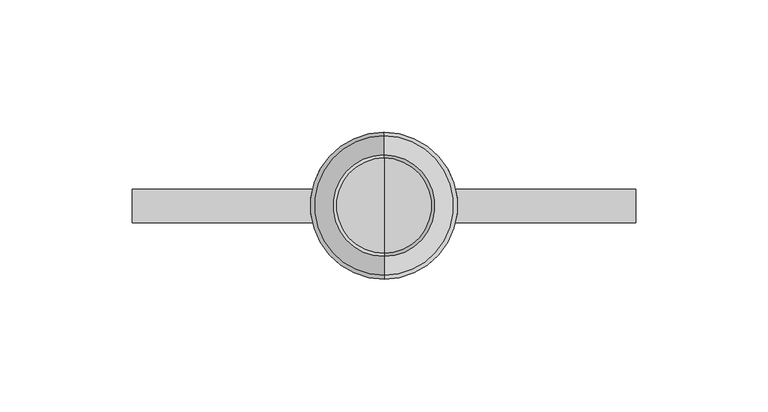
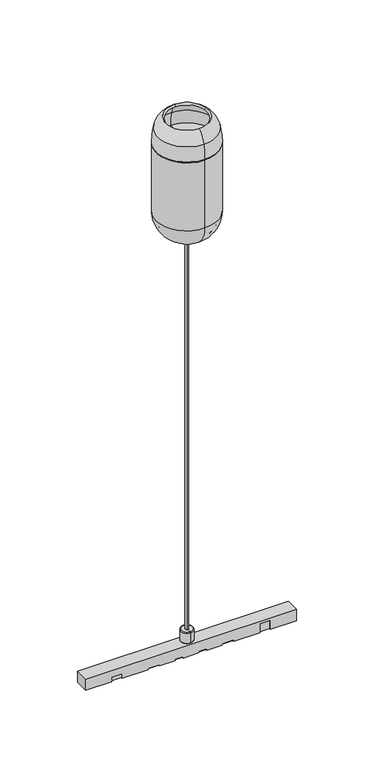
"""IFC4 building model written with IfcOpenShell, lengths in millimetres: light fixture geometry, ARTEMIDE-TurnAround-GopleD60 : 60Ø_13° 2700K."""

from ifc_helpers import new_model, si_unit, point, frame, origin, origin_with_axes, origin_2d, place, context, project, spatial, polyline, circle_curve, ellipse_curve, trimmed, segment, composite_curve, outline, extrude, faceted_brep, source, transform, mapped, element, save
from ifc_brep_helpers import plane_surface, cylinder_surface, revolved_surface, advanced_brep


def light_fixture_813dc2cb(model_context):
    return source(origin(), model_context, "Body", "SolidModel", [
        extrude(outline(polyline([(94.2415938, -5.3), (-94.2415938, -5.3), (-94.2415938, 5.3), (94.2415938, 5.3), (94.2415938, -5.3)])), frame((0.0, 0.0, -10.9), z_axis=(0.0, 0.0, 1.0), x_axis=(1.0, 0.0, 0.0)), (0.0, 0.0, 1.0), 9.9),
        faceted_brep([(-94.2415938, -5.3, -1.0), (-94.2415938, 5.3, -1.0), (94.2415938, 5.3, -1.0), (94.2415938, -5.3, -1.0), (95.2415938, 6.3079367, 0.0), (-95.2415938, 6.3079367, 0.0), (-95.2415938, -6.3079367, 0.0), (95.2415938, -6.3079367, 0.0), (95.2415938, -6.3079367, -10.9), (95.2415938, 6.3079367, -10.9), (71.7491989, -6.3079367, -10.9), (-95.2415938, -6.3079367, -10.9), (-71.7491989, -6.3079367, -10.9), (-71.7491989, -6.3079367, -6.5241217), (-62.1750978, -6.3079367, -6.5241217), (-62.1750978, -6.3079367, -10.9), (-38.7118449, -6.3079367, -10.9), (-38.4738035, -6.3079367, -9.5497944), (-28.5261965, -6.3079367, -9.5497944), (-28.2881551, -6.3079367, -10.9), (-14.4118449, -6.3079367, -10.9), (-14.1738035, -6.3079367, -9.5497944), (-7.2377889, -6.3079367, -9.5497944), (-6.9997475, -6.3079367, -10.9), (6.9997475, -6.3079367, -10.9), (7.2377889, -6.3079367, -9.5497944), (14.1738035, -6.3079367, -9.5497944), (14.4118449, -6.3079367, -10.9), (28.2881551, -6.3079367, -10.9), (28.5261965, -6.3079367, -9.5497944), (38.4738035, -6.3079367, -9.5497944), (38.7118449, -6.3079367, -10.9), (62.1750978, -6.3079367, -10.9), (62.1750978, -6.3079367, -2.4235673), (71.7491989, -6.3079367, -2.4235673), (-95.2415938, 6.3079367, -10.9), (71.7491989, 6.3079367, -10.9), (71.7491989, 6.3079367, -2.4235673), (62.1750978, 6.3079367, -2.4235673), (62.1750978, 6.3079367, -10.9), (38.7118449, 6.3079367, -10.9), (38.4738035, 6.3079367, -9.5497944), (28.5261965, 6.3079367, -9.5497944), (28.2881551, 6.3079367, -10.9), (14.4118449, 6.3079367, -10.9), (14.1738035, 6.3079367, -9.5497944), (7.2377889, 6.3079367, -9.5497944), (6.9997475, 6.3079367, -10.9), (-6.9997475, 6.3079367, -10.9), (-7.2377889, 6.3079367, -9.5497944), (-14.1738035, 6.3079367, -9.5497944), (-14.4118449, 6.3079367, -10.9), (-28.2881551, 6.3079367, -10.9), (-28.5261965, 6.3079367, -9.5497944), (-38.4738035, 6.3079367, -9.5497944), (-38.7118449, 6.3079367, -10.9), (-62.1750978, 6.3079367, -10.9), (-62.1750978, 6.3079367, -6.5241217), (-71.7491989, 6.3079367, -6.5241217), (-71.7491989, 6.3079367, -10.9), (-62.1750978, 5.3, -10.9), (-38.7118449, 5.3, -10.9), (-38.4738035, 5.3, -9.5497944), (-28.5261965, 5.3, -9.5497944), (-28.2881551, 5.3, -10.9), (-14.4118449, 5.3, -10.9), (-14.1738035, 5.3, -9.5497944), (-7.2377889, 5.3, -9.5497944), (-6.9997475, 5.3, -10.9), (6.9997475, 5.3, -10.9), (7.2377889, 5.3, -9.5497944), (14.1738035, 5.3, -9.5497944), (14.4118449, 5.3, -10.9), (28.2881551, 5.3, -10.9), (28.5261965, 5.3, -9.5497944), (38.4738035, 5.3, -9.5497944), (38.7118449, 5.3, -10.9), (62.1750978, 5.3, -10.9), (62.1750978, 5.3, -2.4235673), (71.7491989, 5.3, -2.4235673), (71.7491989, 5.3, -10.9), (94.2415938, 5.3, -10.9), (-94.2415938, 5.3, -10.9), (-71.7491989, 5.3, -10.9), (-71.7491989, 5.3, -6.5241217), (-62.1750978, 5.3, -6.5241217), (-94.2415938, -5.3, -10.9), (-71.7491989, -5.3, -10.9), (71.7491989, -5.3, -10.9), (94.2415938, -5.3, -10.9), (-62.1750978, -5.3, -10.9), (-62.1750978, -5.3, -6.5241217), (-71.7491989, -5.3, -6.5241217), (71.7491989, -5.3, -2.4235673), (62.1750978, -5.3, -2.4235673), (62.1750978, -5.3, -10.9), (38.7118449, -5.3, -10.9), (38.4738035, -5.3, -9.5497944), (28.5261965, -5.3, -9.5497944), (28.2881551, -5.3, -10.9), (14.4118449, -5.3, -10.9), (14.1738035, -5.3, -9.5497944), (7.2377889, -5.3, -9.5497944), (6.9997475, -5.3, -10.9), (-6.9997475, -5.3, -10.9), (-7.2377889, -5.3, -9.5497944), (-14.1738035, -5.3, -9.5497944), (-14.4118449, -5.3, -10.9), (-28.2881551, -5.3, -10.9), (-28.5261965, -5.3, -9.5497944), (-38.4738035, -5.3, -9.5497944), (-38.7118449, -5.3, -10.9)], [[[0, 1, 2, 3]], [[4, 5, 6, 7]], [[4, 7, 8, 9]], [[10, 8, 7, 6, 11, 12, 13, 14, 15, 16, 17, 18, 19, 20, 21, 22, 23, 24, 25, 26, 27, 28, 29, 30, 31, 32, 33, 34]], [[6, 5, 35, 11]], [[5, 4, 9, 36, 37, 38, 39, 40, 41, 42, 43, 44, 45, 46, 47, 48, 49, 50, 51, 52, 53, 54, 55, 56, 57, 58, 59, 35]], [[60, 61, 62, 63, 64, 65, 66, 67, 68, 69, 70, 71, 72, 73, 74, 75, 76, 77, 78, 79, 80, 81, 2, 1, 82, 83, 84, 85]], [[57, 56, 60, 85]], [[58, 57, 85, 84]], [[59, 58, 84, 83]], [[59, 83, 82, 86, 87, 12, 11, 35]], [[9, 8, 10, 88, 89, 81, 80, 36]], [[37, 36, 80, 79]], [[38, 37, 79, 78]], [[39, 38, 78, 77]], [[40, 39, 77, 76]], [[41, 40, 76, 75]], [[42, 41, 75, 74]], [[43, 42, 74, 73]], [[44, 43, 73, 72]], [[45, 44, 72, 71]], [[46, 45, 71, 70]], [[47, 46, 70, 69]], [[48, 47, 69, 68]], [[49, 48, 68, 67]], [[50, 49, 67, 66]], [[51, 50, 66, 65]], [[52, 51, 65, 64]], [[53, 52, 64, 63]], [[54, 53, 63, 62]], [[55, 54, 62, 61]], [[56, 55, 61, 60]], [[82, 1, 0, 86]], [[90, 91, 92, 87, 86, 0, 3, 89, 88, 93, 94, 95, 96, 97, 98, 99, 100, 101, 102, 103, 104, 105, 106, 107, 108, 109, 110, 111]], [[15, 14, 91, 90]], [[14, 13, 92, 91]], [[13, 12, 87, 92]], [[10, 34, 93, 88]], [[34, 33, 94, 93]], [[33, 32, 95, 94]], [[32, 31, 96, 95]], [[31, 30, 97, 96]], [[30, 29, 98, 97]], [[29, 28, 99, 98]], [[28, 27, 100, 99]], [[27, 26, 101, 100]], [[26, 25, 102, 101]], [[25, 24, 103, 102]], [[24, 23, 104, 103]], [[23, 22, 105, 104]], [[22, 21, 106, 105]], [[21, 20, 107, 106]], [[20, 19, 108, 107]], [[19, 18, 109, 108]], [[18, 17, 110, 109]], [[17, 16, 111, 110]], [[16, 15, 90, 111]], [[81, 89, 3, 2]]]),
        extrude(outline(composite_curve([segment(trimmed(circle_curve(origin_2d(), 1.35), [point((0.0, 1.35))], [point((0.0, -1.35))], False, "CARTESIAN"), True, "CONTINUOUS"), segment(trimmed(circle_curve(origin_2d(), 1.35), [point((0.0, -1.35))], [point((0.0, 1.35))], False, "CARTESIAN"), True, "CONTINUOUS")], self_intersect=False)), origin_with_axes(), (0.0, 0.0, 1.0), 474.9684564),
        advanced_brep(
        [(0.0, 1.35, 0.0), (0.0, -1.35, 0.0), (0.0, -4.8, 0.0), (0.0, 4.8, 0.0), (0.0, 4.8, 11.0), (0.0, -4.8, 11.0), (0.0, -1.35, 11.0), (0.0, 1.35, 11.0), (0.0, 5.5, 10.3), (0.0, -5.5, 10.3), (0.0, 5.5, 0.7), (0.0, -5.5, 0.7)],
        [
            (0, 1, circle_curve(frame((0.0, 0.0, 0.0), z_axis=(0.0, 0.0, 1.0), x_axis=(0.0, -1.0, 0.0)), 1.35)),
            (1, 2),
            (2, 3, circle_curve(frame((0.0, 0.0, 0.0), z_axis=(0.0, 0.0, -1.0), x_axis=(0.0, -1.0, 0.0)), 4.8)),
            (3, 0),
            (1, 0, circle_curve(frame((0.0, 0.0, 0.0), z_axis=(0.0, 0.0, 1.0), x_axis=(0.0, -1.0, 0.0)), 1.35)),
            (3, 2, circle_curve(frame((0.0, 0.0, 0.0), z_axis=(0.0, 0.0, -1.0), x_axis=(0.0, -1.0, 0.0)), 4.8)),
            (4, 5, circle_curve(frame((0.0, 0.0, 11.0), z_axis=(0.0, 0.0, 1.0), x_axis=(0.0, -1.0, 0.0)), 4.8)),
            (5, 6),
            (6, 7, circle_curve(frame((0.0, 0.0, 11.0), z_axis=(0.0, 0.0, -1.0), x_axis=(0.0, -1.0, 0.0)), 1.35)),
            (7, 4),
            (5, 4, circle_curve(frame((0.0, 0.0, 11.0), z_axis=(0.0, 0.0, 1.0), x_axis=(0.0, -1.0, 0.0)), 4.8)),
            (7, 6, circle_curve(frame((0.0, 0.0, 11.0), z_axis=(0.0, 0.0, -1.0), x_axis=(0.0, -1.0, 0.0)), 1.35)),
            (8, 9, circle_curve(frame((0.0, 0.0, 10.3), z_axis=(0.0, 0.0, 1.0), x_axis=(0.0, -1.0, 0.0)), 5.5)),
            (9, 5, circle_curve(frame((0.0, -4.8, 10.3), z_axis=(-1.0, 0.0, 0.0), x_axis=(0.0, 0.0, 1.0)), 0.7)),
            (4, 8, circle_curve(frame((0.0, 4.8, 10.3), z_axis=(-1.0, 0.0, 0.0), x_axis=(0.0, 0.0, 1.0)), 0.7)),
            (9, 8, circle_curve(frame((0.0, 0.0, 10.3), z_axis=(0.0, 0.0, 1.0), x_axis=(0.0, -1.0, 0.0)), 5.5)),
            (10, 11, circle_curve(frame((0.0, 0.0, 0.7), z_axis=(0.0, 0.0, 1.0), x_axis=(0.0, -1.0, 0.0)), 5.5)),
            (11, 9),
            (8, 10),
            (11, 10, circle_curve(frame((0.0, 0.0, 0.7), z_axis=(0.0, 0.0, 1.0), x_axis=(0.0, -1.0, 0.0)), 5.5)),
            (2, 11, circle_curve(frame((0.0, -4.8, 0.7), z_axis=(-1.0, 0.0, 0.0), x_axis=(0.0, 0.0, 1.0)), 0.7)),
            (10, 3, circle_curve(frame((0.0, 4.8, 0.7), z_axis=(-1.0, 0.0, 0.0), x_axis=(0.0, 0.0, 1.0)), 0.7)),
            (6, 1),
            (0, 7),
        ],
        [
            plane_surface(frame((0.0, 0.0, 0.0), z_axis=(0.0, 0.0, -1.0), x_axis=(0.0, -1.0, 0.0))),
            plane_surface(frame((0.0, 0.0, 11.0), z_axis=(0.0, 0.0, 1.0), x_axis=(0.0, -1.0, 0.0))),
            revolved_surface(trimmed(ellipse_curve(frame((0.0, -4.8, 10.3), z_axis=(1.0, 0.0, 0.0), x_axis=(0.0, 0.0, 1.0)), 0.7, 0.7), [point((0.0, -4.8, 11.0))], [point((0.0, -5.5, 10.3))], True, "CARTESIAN"), (0.0, 0.0, 0.0), (0.0, 0.0, -1.0)),
            cylinder_surface(frame((0.0, 0.0, 0.0), z_axis=(0.0, 0.0, -1.0), x_axis=(0.0, -1.0, 0.0)), 5.5),
            revolved_surface(trimmed(ellipse_curve(frame((0.0, -4.8, 0.7), z_axis=(1.0, 0.0, 0.0), x_axis=(0.0, 0.0, 1.0)), 0.7, 0.7), [point((0.0, -5.5, 0.7))], [point((0.0, -4.8, 0.0))], True, "CARTESIAN"), (0.0, 0.0, 0.0), (0.0, 0.0, -1.0)),
            revolved_surface(polyline([(0.0, -1.35, 0.0), (0.0, -1.35, 11.0)]), (0.0, 0.0, 0.0), (0.0, 0.0, -1.0)),
        ],
        [
            (0, [[1, 2, 3, 4]]),
            (0, [[5, -4, 6, -2]]),
            (1, [[7, 8, 9, 10]]),
            (1, [[11, -10, 12, -8]]),
            (2, [[13, 14, -7, 15]]),
            (2, [[16, -15, -11, -14]]),
            (3, [[17, 18, -13, 19]]),
            (3, [[20, -19, -16, -18]]),
            (4, [[-3, 21, -17, 22]]),
            (4, [[-6, -22, -20, -21]]),
            (5, [[-9, 23, -1, 24]]),
            (5, [[-12, -24, -5, -23]]),
        ],
    ),
        advanced_brep(
        [(0.0, 27.796553, 476.0021494), (0.0, -27.796553, 476.0021494), (0.0, -26.3970326, 489.3176974), (0.0, 26.3970326, 489.3176974), (0.0, 26.7515887, 476.0021494), (0.0, -26.7515887, 476.0021494), (0.0, 26.7515887, 474.9684564), (0.0, -26.7515887, 474.9684564), (0.0, 0.0, 474.9684564), (0.0, 24.4407374, 488.901874), (0.0, -24.4407374, 488.901874), (0.0, -25.796553, 476.0021494), (0.0, 25.796553, 476.0021494), (0.0, 18.0733426, 498.3419249), (0.0, -18.0733426, 498.3419249), (0.0, 19.1917284, 500.0), (0.0, -19.1917284, 500.0), (0.0, 0.0, 476.0021494)],
        [
            (0, 1, circle_curve(frame((0.0, 0.0, 476.0021494), z_axis=(0.0, 0.0, 1.0), x_axis=(0.0, -1.0, 0.0)), 27.796553)),
            (1, 2, circle_curve(frame((0.0, 36.2476956, 476.0021494), z_axis=(-1.0, 0.0, 0.0), x_axis=(0.0, 1.0, 0.0)), 64.0442486)),
            (2, 3, circle_curve(frame((0.0, 0.0, 489.3176974), z_axis=(0.0, 0.0, -1.0), x_axis=(0.0, -1.0, 0.0)), 26.3970326)),
            (3, 0, circle_curve(frame((0.0, -36.2476956, 476.0021494), z_axis=(-1.0, 0.0, 0.0), x_axis=(0.0, -1.0, 0.0)), 64.0442486)),
            (1, 0, circle_curve(frame((0.0, 0.0, 476.0021494), z_axis=(0.0, 0.0, 1.0), x_axis=(0.0, -1.0, 0.0)), 27.796553)),
            (3, 2, circle_curve(frame((0.0, 0.0, 489.3176974), z_axis=(0.0, 0.0, -1.0), x_axis=(0.0, -1.0, 0.0)), 26.3970326)),
            (4, 5, circle_curve(frame((0.0, 0.0, 476.0021494), z_axis=(0.0, 0.0, 1.0), x_axis=(0.0, -1.0, 0.0)), 26.7515887)),
            (5, 1),
            (0, 4),
            (5, 4, circle_curve(frame((0.0, 0.0, 476.0021494), z_axis=(0.0, 0.0, 1.0), x_axis=(0.0, -1.0, 0.0)), 26.7515887)),
            (6, 7, circle_curve(frame((0.0, 0.0, 474.9684564), z_axis=(0.0, 0.0, 1.0), x_axis=(0.0, -1.0, 0.0)), 26.7515887)),
            (7, 5),
            (4, 6),
            (7, 6, circle_curve(frame((0.0, 0.0, 474.9684564), z_axis=(0.0, 0.0, 1.0), x_axis=(0.0, -1.0, 0.0)), 26.7515887)),
            (8, 7),
            (6, 8),
            (9, 10, circle_curve(frame((0.0, 0.0, 488.901874), z_axis=(0.0, 0.0, 1.0), x_axis=(0.0, -1.0, 0.0)), 24.4407374)),
            (10, 11, circle_curve(frame((0.0, 36.2476956, 476.0021494), z_axis=(1.0, 0.0, 0.0), x_axis=(0.0, 1.0, 0.0)), 62.0442486)),
            (11, 12, circle_curve(frame((0.0, 0.0, 476.0021494), z_axis=(0.0, 0.0, -1.0), x_axis=(0.0, -1.0, 0.0)), 25.796553)),
            (12, 9, circle_curve(frame((0.0, -36.2476956, 476.0021494), z_axis=(1.0, 0.0, 0.0), x_axis=(0.0, -1.0, 0.0)), 62.0442486)),
            (10, 9, circle_curve(frame((0.0, 0.0, 488.901874), z_axis=(0.0, 0.0, 1.0), x_axis=(0.0, -1.0, 0.0)), 24.4407374)),
            (12, 11, circle_curve(frame((0.0, 0.0, 476.0021494), z_axis=(0.0, 0.0, -1.0), x_axis=(0.0, -1.0, 0.0)), 25.796553)),
            (13, 14, circle_curve(frame((0.0, 0.0, 498.3419249), z_axis=(0.0, 0.0, 1.0), x_axis=(0.0, -1.0, 0.0)), 18.0733426)),
            (14, 10, circle_curve(frame((0.0, -9.5745671, 485.741972), z_axis=(1.0, 0.0, 0.0), x_axis=(0.0, 1.0, 0.0)), 15.1982893)),
            (9, 13, circle_curve(frame((0.0, 9.5745671, 485.741972), z_axis=(1.0, 0.0, 0.0), x_axis=(0.0, -1.0, 0.0)), 15.1982893)),
            (14, 13, circle_curve(frame((0.0, 0.0, 498.3419249), z_axis=(0.0, 0.0, 1.0), x_axis=(0.0, -1.0, 0.0)), 18.0733426)),
            (15, 16, circle_curve(frame((0.0, 0.0, 500.0), z_axis=(0.0, 0.0, 1.0), x_axis=(0.0, -1.0, 0.0)), 19.1917284)),
            (16, 14),
            (13, 15),
            (16, 15, circle_curve(frame((0.0, 0.0, 500.0), z_axis=(0.0, 0.0, 1.0), x_axis=(0.0, -1.0, 0.0)), 19.1917284)),
            (2, 16, circle_curve(frame((0.0, -9.5745671, 485.741972), z_axis=(-1.0, 0.0, 0.0), x_axis=(0.0, 1.0, 0.0)), 17.1982893)),
            (15, 3, circle_curve(frame((0.0, 9.5745671, 485.741972), z_axis=(-1.0, 0.0, 0.0), x_axis=(0.0, -1.0, 0.0)), 17.1982893)),
            (11, 17),
            (17, 12),
        ],
        [
            revolved_surface(trimmed(ellipse_curve(frame((0.0, 36.2476956, 476.0021494), z_axis=(1.0, 0.0, 0.0), x_axis=(0.0, 1.0, 0.0)), 64.0442486, 64.0442486), [point((0.0, -26.3970326, 489.3176974))], [point((0.0, -27.796553, 476.0021494))], True, "CARTESIAN"), (0.0, 0.0, 390.0367898), (0.0, 0.0, -1.0)),
            plane_surface(frame((0.0, 0.0, 476.0021494), z_axis=(0.0, 0.0, -1.0), x_axis=(0.0, -1.0, 0.0))),
            cylinder_surface(frame((0.0, 0.0, 390.0367898), z_axis=(0.0, 0.0, -1.0), x_axis=(0.0, -1.0, 0.0)), 26.7515887),
            plane_surface(frame((0.0, 0.0, 474.9684564), z_axis=(0.0, 0.0, -1.0), x_axis=(0.0, -1.0, 0.0))),
            revolved_surface(trimmed(ellipse_curve(frame((0.0, 36.2476956, 476.0021494), z_axis=(-1.0, 0.0, 0.0), x_axis=(0.0, 1.0, 0.0)), 62.0442486, 62.0442486), [point((0.0, -25.796553, 476.0021494))], [point((0.0, -24.4407374, 488.901874))], True, "CARTESIAN"), (0.0, 0.0, 390.0367898), (0.0, 0.0, -1.0)),
            revolved_surface(trimmed(ellipse_curve(frame((0.0, -9.5745671, 485.741972), z_axis=(-1.0, 0.0, 0.0), x_axis=(0.0, 1.0, 0.0)), 15.1982893, 15.1982893), [point((0.0, -24.4407374, 488.901874))], [point((0.0, -18.0733426, 498.3419249))], True, "CARTESIAN"), (0.0, 0.0, 390.0367898), (0.0, 0.0, -1.0)),
            revolved_surface(polyline([(0.0, -18.0733426, 498.3419249), (0.0, -19.1917284, 500.0)]), (0.0, 0.0, 390.0367898), (0.0, 0.0, -1.0)),
            revolved_surface(trimmed(ellipse_curve(frame((0.0, -9.5745671, 485.741972), z_axis=(1.0, 0.0, 0.0), x_axis=(0.0, 1.0, 0.0)), 17.1982893, 17.1982893), [point((0.0, -19.1917284, 500.0))], [point((0.0, -26.3970326, 489.3176974))], True, "CARTESIAN"), (0.0, 0.0, 390.0367898), (0.0, 0.0, -1.0)),
            plane_surface(frame((0.0, 0.0, 476.0021494), z_axis=(0.0, 0.0, 1.0), x_axis=(0.0, -1.0, 0.0))),
        ],
        [
            (0, [[1, 2, 3, 4]]),
            (0, [[5, -4, 6, -2]]),
            (1, [[7, 8, -1, 9]]),
            (1, [[10, -9, -5, -8]]),
            (2, [[11, 12, -7, 13]]),
            (2, [[14, -13, -10, -12]]),
            (3, [[15, -11, 16]]),
            (3, [[-16, -14, -15]]),
            (4, [[17, 18, 19, 20]]),
            (4, [[21, -20, 22, -18]]),
            (5, [[23, 24, -17, 25]]),
            (5, [[26, -25, -21, -24]]),
            (6, [[27, 28, -23, 29]]),
            (6, [[30, -29, -26, -28]]),
            (7, [[-3, 31, -27, 32]]),
            (7, [[-6, -32, -30, -31]]),
            (8, [[-19, 33, 34]]),
            (8, [[-22, -34, -33]]),
        ],
    ),
        advanced_brep(
        [(0.0, 1.35, 390.5999611), (0.0, -1.35, 390.5999611), (0.0, -17.8058728, 390.5999611), (0.0, 17.8058728, 390.5999611), (0.0, 17.1327061, 392.5999611), (0.0, -17.1327061, 392.5999611), (0.0, -1.35, 392.5999611), (0.0, 1.35, 392.5999611), (0.0, 25.796553, 410.3795832), (0.0, -25.796553, 410.3795832), (0.0, 25.796553, 474.9684564), (0.0, -25.796553, 474.9684564), (0.0, 27.796553, 410.3795832), (0.0, -27.796553, 410.3795832), (0.0, -27.796553, 474.9684564), (0.0, 27.796553, 474.9684564)],
        [
            (0, 1, circle_curve(frame((0.0, 0.0, 390.5999611), z_axis=(0.0, 0.0, 1.0), x_axis=(0.0, -1.0, 0.0)), 1.35)),
            (1, 2),
            (2, 3, circle_curve(frame((0.0, 0.0, 390.5999611), z_axis=(0.0, 0.0, -1.0), x_axis=(0.0, -1.0, 0.0)), 17.8058728)),
            (3, 0),
            (1, 0, circle_curve(frame((0.0, 0.0, 390.5999611), z_axis=(0.0, 0.0, 1.0), x_axis=(0.0, -1.0, 0.0)), 1.35)),
            (3, 2, circle_curve(frame((0.0, 0.0, 390.5999611), z_axis=(0.0, 0.0, -1.0), x_axis=(0.0, -1.0, 0.0)), 17.8058728)),
            (4, 5, circle_curve(frame((0.0, 0.0, 392.5999611), z_axis=(0.0, 0.0, 1.0), x_axis=(0.0, -1.0, 0.0)), 17.1327061)),
            (5, 6),
            (6, 7, circle_curve(frame((0.0, 0.0, 392.5999611), z_axis=(0.0, 0.0, -1.0), x_axis=(0.0, -1.0, 0.0)), 1.35)),
            (7, 4),
            (5, 4, circle_curve(frame((0.0, 0.0, 392.5999611), z_axis=(0.0, 0.0, 1.0), x_axis=(0.0, -1.0, 0.0)), 17.1327061)),
            (7, 6, circle_curve(frame((0.0, 0.0, 392.5999611), z_axis=(0.0, 0.0, -1.0), x_axis=(0.0, -1.0, 0.0)), 1.35)),
            (8, 9, circle_curve(frame((0.0, 0.0, 410.3795832), z_axis=(0.0, 0.0, 1.0), x_axis=(0.0, -1.0, 0.0)), 25.796553)),
            (9, 5, circle_curve(frame((0.0, -3.2212923, 410.3795832), z_axis=(1.0, 0.0, 0.0), x_axis=(0.0, 1.0, 0.0)), 22.5752607)),
            (4, 8, circle_curve(frame((0.0, 3.2212923, 410.3795832), z_axis=(1.0, 0.0, 0.0), x_axis=(0.0, -1.0, 0.0)), 22.5752607)),
            (9, 8, circle_curve(frame((0.0, 0.0, 410.3795832), z_axis=(0.0, 0.0, 1.0), x_axis=(0.0, -1.0, 0.0)), 25.796553)),
            (10, 11, circle_curve(frame((0.0, 0.0, 474.9684564), z_axis=(0.0, 0.0, 1.0), x_axis=(0.0, -1.0, 0.0)), 25.796553)),
            (11, 9),
            (8, 10),
            (11, 10, circle_curve(frame((0.0, 0.0, 474.9684564), z_axis=(0.0, 0.0, 1.0), x_axis=(0.0, -1.0, 0.0)), 25.796553)),
            (12, 13, circle_curve(frame((0.0, 0.0, 410.3795832), z_axis=(0.0, 0.0, 1.0), x_axis=(0.0, -1.0, 0.0)), 27.796553)),
            (13, 14),
            (14, 15, circle_curve(frame((0.0, 0.0, 474.9684564), z_axis=(0.0, 0.0, -1.0), x_axis=(0.0, -1.0, 0.0)), 27.796553)),
            (15, 12),
            (13, 12, circle_curve(frame((0.0, 0.0, 410.3795832), z_axis=(0.0, 0.0, 1.0), x_axis=(0.0, -1.0, 0.0)), 27.796553)),
            (15, 14, circle_curve(frame((0.0, 0.0, 474.9684564), z_axis=(0.0, 0.0, -1.0), x_axis=(0.0, -1.0, 0.0)), 27.796553)),
            (2, 13, circle_curve(frame((0.0, -3.2212923, 410.3795832), z_axis=(-1.0, 0.0, 0.0), x_axis=(0.0, 1.0, 0.0)), 24.5752607)),
            (12, 3, circle_curve(frame((0.0, 3.2212923, 410.3795832), z_axis=(-1.0, 0.0, 0.0), x_axis=(0.0, -1.0, 0.0)), 24.5752607)),
            (14, 11),
            (10, 15),
            (6, 1),
            (0, 7),
        ],
        [
            plane_surface(frame((0.0, 0.0, 390.5999611), z_axis=(0.0, 0.0, -1.0), x_axis=(0.0, -1.0, 0.0))),
            plane_surface(frame((0.0, 0.0, 392.5999611), z_axis=(0.0, 0.0, 1.0), x_axis=(0.0, -1.0, 0.0))),
            revolved_surface(trimmed(ellipse_curve(frame((0.0, -3.2212923, 410.3795832), z_axis=(-1.0, 0.0, 0.0), x_axis=(0.0, 1.0, 0.0)), 22.5752607, 22.5752607), [point((0.0, -17.1327061, 392.5999611))], [point((0.0, -25.796553, 410.3795832))], True, "CARTESIAN"), (0.0, 0.0, 390.0367898), (0.0, 0.0, -1.0)),
            revolved_surface(polyline([(0.0, -25.796553, 410.3795832), (0.0, -25.796553, 474.9684564)]), (0.0, 0.0, 390.0367898), (0.0, 0.0, -1.0)),
            cylinder_surface(frame((0.0, 0.0, 390.0367898), z_axis=(0.0, 0.0, -1.0), x_axis=(0.0, -1.0, 0.0)), 27.796553),
            revolved_surface(trimmed(ellipse_curve(frame((0.0, -3.2212923, 410.3795832), z_axis=(1.0, 0.0, 0.0), x_axis=(0.0, 1.0, 0.0)), 24.5752607, 24.5752607), [point((0.0, -27.796553, 410.3795832))], [point((0.0, -17.8058728, 390.5999611))], True, "CARTESIAN"), (0.0, 0.0, 390.0367898), (0.0, 0.0, -1.0)),
            plane_surface(frame((0.0, 0.0, 474.9684564), z_axis=(0.0, 0.0, 1.0), x_axis=(0.0, -1.0, 0.0))),
            revolved_surface(polyline([(0.0, -1.35, 390.5999611), (0.0, -1.35, 392.5999611)]), (0.0, 0.0, 390.0367898), (0.0, 0.0, -1.0)),
        ],
        [
            (0, [[1, 2, 3, 4]]),
            (0, [[5, -4, 6, -2]]),
            (1, [[7, 8, 9, 10]]),
            (1, [[11, -10, 12, -8]]),
            (2, [[13, 14, -7, 15]]),
            (2, [[16, -15, -11, -14]]),
            (3, [[17, 18, -13, 19]]),
            (3, [[20, -19, -16, -18]]),
            (4, [[21, 22, 23, 24]]),
            (4, [[25, -24, 26, -22]]),
            (5, [[-3, 27, -21, 28]]),
            (5, [[-6, -28, -25, -27]]),
            (6, [[-23, 29, -17, 30]]),
            (6, [[-26, -30, -20, -29]]),
            (7, [[-9, 31, -1, 32]]),
            (7, [[-12, -32, -5, -31]]),
        ],
    ),
    ])


if __name__ == "__main__":
    model = new_model("IFC4")
    model_context = context("Model", 3, world=origin())
    ifc_project = project(units=[si_unit("LENGTHUNIT", "METRE", prefix="MILLI")], contexts=[model_context])
    site = spatial("IfcSite", under=ifc_project)
    building = spatial("IfcBuilding", under=site)
    placement = place(None, origin())
    light_fixture_shape = light_fixture_813dc2cb(model_context)
    element("IfcLightFixture", 1, ObjectType="ARTEMIDE-TurnAround-GopleD60 : 60Ø_13° 2700K", at=placement, inside=building, context=model_context, shape_type="MappedRepresentation", body=[
        mapped(light_fixture_shape, transform((0.0, 0.0, 0.0), x_axis=(1.0, 0.0, 0.0), y_axis=(0.0, 1.0, 0.0), z_axis=(0.0, 0.0, 1.0))),
    ])
    save(model, "model.ifc")
